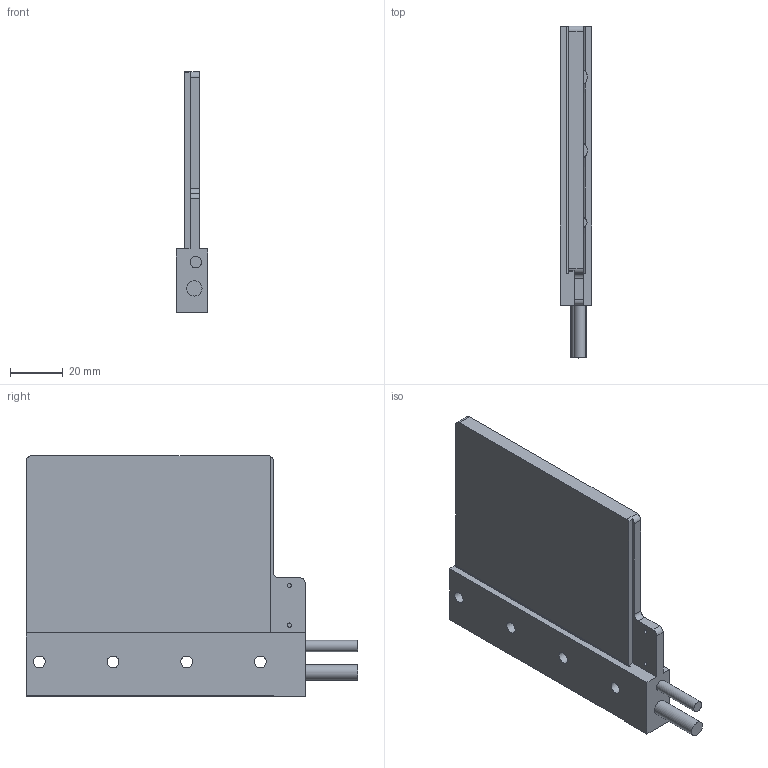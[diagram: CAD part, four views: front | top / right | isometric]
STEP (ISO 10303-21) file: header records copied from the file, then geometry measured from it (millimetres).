
FILE_DESCRIPTION( ( '-' ), '1' );
FILE_NAME( 'C:/Users/peikelboom/Desktop/STEP Files/Ironless/UL/Coilunit UL 3_1606071.stp', '20-04-2016', ( 'P.Eikelboom' ), ( 'Technotion' ), 'PSStep 16.0.42', '-', ' ' );
FILE_SCHEMA( ( 'AUTOMOTIVE_DESIGN { 1 0 10303 214 1 1 1 1 }' ) );
Length unit declared in the file: millimetre
Products named in the file (1): GietharsUL3
Bounding box: 12 x 126 x 91.3 mm (x, y, z)
Surface area: 24247.3 mm2 (no closed solid volume)
Topology: 0 solids, 116 shells, 116 faces, 610 edges, 592 vertices
Faces by surface type: plane 60, cylinder 52, cone 4
Full cylindrical faces by diameter (mm): 1.6 x2, 3 x2, 3.2 x2, 4.3 x1, 4.5 x4, 5.7 x2, 5.8 x1
Entity records: 6846 total; most frequent: CARTESIAN_POINT 1377, DIRECTION 1000, ORIENTED_EDGE 576, EDGE_CURVE 576, VERTEX_POINT 576, LINE 362, VECTOR 362, AXIS2_PLACEMENT_3D 319
